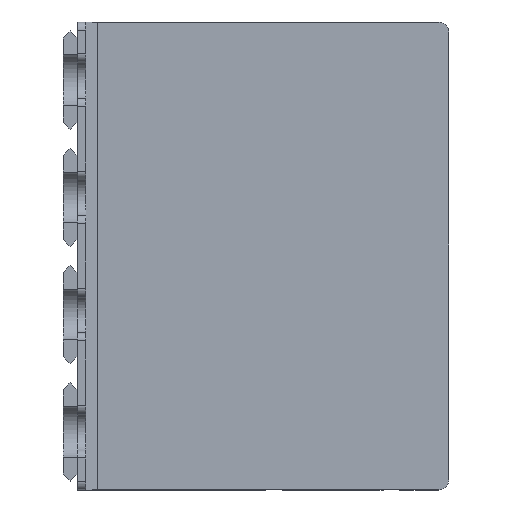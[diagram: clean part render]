
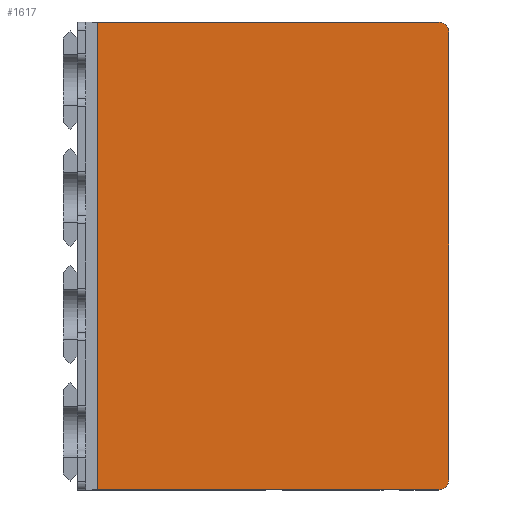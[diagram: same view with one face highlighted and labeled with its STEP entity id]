
A CAD part, top view. The second image highlights one B-rep face of the part: STEP entity #1617.
In plain terms, the highlighted planar face has unit normal (0, 0, 1).
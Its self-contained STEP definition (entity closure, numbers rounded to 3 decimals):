
#19=CIRCLE('',#1638,3.75);
#22=CIRCLE('',#1643,3.75);
#163=FACE_OUTER_BOUND('',#252,.T.);
#252=EDGE_LOOP('',(#1462,#1463,#1464,#1465,#1466,#1467));
#262=LINE('',#2220,#451);
#279=LINE('',#2259,#468);
#438=LINE('',#2656,#627);
#441=LINE('',#2661,#630);
#451=VECTOR('',#1772,10.);
#468=VECTOR('',#1803,10.);
#627=VECTOR('',#2188,10.);
#630=VECTOR('',#2195,10.);
#639=VERTEX_POINT('',#2217);
#640=VERTEX_POINT('',#2219);
#651=VERTEX_POINT('',#2249);
#652=VERTEX_POINT('',#2250);
#655=VERTEX_POINT('',#2258);
#780=VERTEX_POINT('',#2655);
#790=EDGE_CURVE('',#639,#640,#262,.T.);
#805=EDGE_CURVE('',#651,#652,#19,.T.);
#809=EDGE_CURVE('',#652,#655,#279,.T.);
#813=EDGE_CURVE('',#655,#639,#22,.T.);
#1006=EDGE_CURVE('',#640,#780,#438,.T.);
#1009=EDGE_CURVE('',#651,#780,#441,.T.);
#1462=ORIENTED_EDGE('',*,*,#1009,.T.);
#1463=ORIENTED_EDGE('',*,*,#1006,.F.);
#1464=ORIENTED_EDGE('',*,*,#790,.F.);
#1465=ORIENTED_EDGE('',*,*,#813,.F.);
#1466=ORIENTED_EDGE('',*,*,#809,.F.);
#1467=ORIENTED_EDGE('',*,*,#805,.F.);
#1532=PLANE('',#1756);
#1617=ADVANCED_FACE('',(#163),#1532,.F.);
#1638=AXIS2_PLACEMENT_3D('',#2251,#1795,#1796);
#1643=AXIS2_PLACEMENT_3D('',#2265,#1810,#1811);
#1756=AXIS2_PLACEMENT_3D('',#2662,#2196,#2197);
#1772=DIRECTION('',(-1.,0.,0.));
#1795=DIRECTION('center_axis',(0.,0.,-1.));
#1796=DIRECTION('ref_axis',(0.707,0.707,0.));
#1803=DIRECTION('',(0.,-1.,0.));
#1810=DIRECTION('center_axis',(0.,0.,-1.));
#1811=DIRECTION('ref_axis',(0.707,-0.707,0.));
#2188=DIRECTION('',(0.,1.,0.));
#2195=DIRECTION('',(-1.,0.,0.));
#2196=DIRECTION('center_axis',(0.,0.,-1.));
#2197=DIRECTION('ref_axis',(1.,0.,0.));
#2217=CARTESIAN_POINT('',(225.4,-20.8,-107.478));
#2219=CARTESIAN_POINT('',(103.15,-20.8,-107.478));
#2220=CARTESIAN_POINT('',(122.15,-20.8,-107.478));
#2249=CARTESIAN_POINT('',(225.4,146.8,-107.478));
#2250=CARTESIAN_POINT('',(229.15,143.05,-107.478));
#2251=CARTESIAN_POINT('Origin',(225.4,143.05,-107.478));
#2258=CARTESIAN_POINT('',(229.15,-17.05,-107.478));
#2259=CARTESIAN_POINT('',(229.15,63.,-107.478));
#2265=CARTESIAN_POINT('Origin',(225.4,-17.05,-107.478));
#2655=CARTESIAN_POINT('',(103.15,146.8,-107.478));
#2656=CARTESIAN_POINT('',(103.15,31.5,-107.478));
#2661=CARTESIAN_POINT('',(122.15,146.8,-107.478));
#2662=CARTESIAN_POINT('Origin',(122.15,63.,-107.478));
